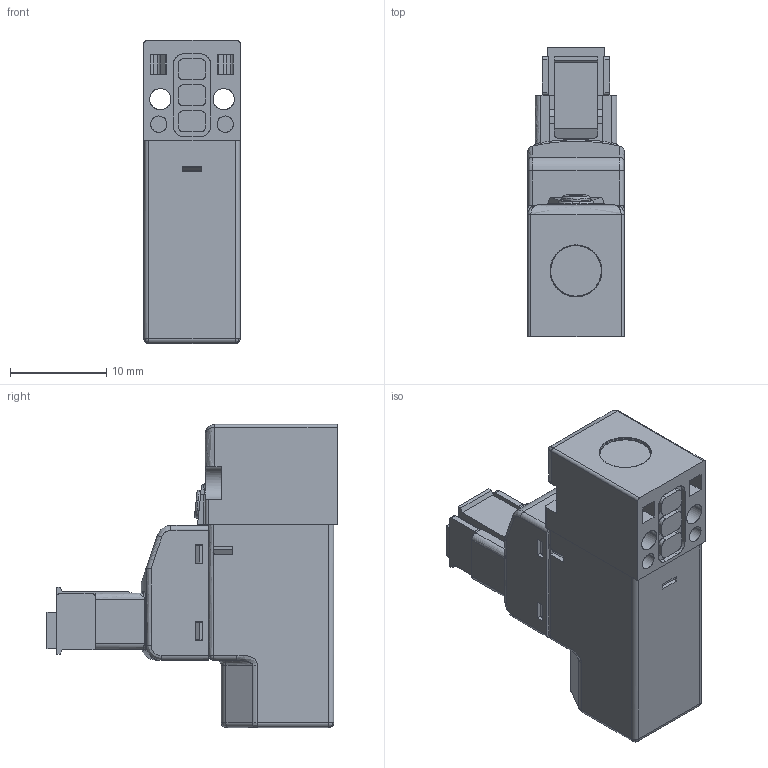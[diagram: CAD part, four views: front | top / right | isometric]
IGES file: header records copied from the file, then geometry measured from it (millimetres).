
Start section: SolidWorks IGES file using analytic representation for surfaces
Bounding box: 10 x 30.15 x 31.5 mm (x, y, z)
Surface area: 4554.9 mm2 (no closed solid volume)
Topology: 0 solids, 0 shells, 589 faces, 6066 edges, 7547 vertices
Faces by surface type: bspline 443, revolution 146
